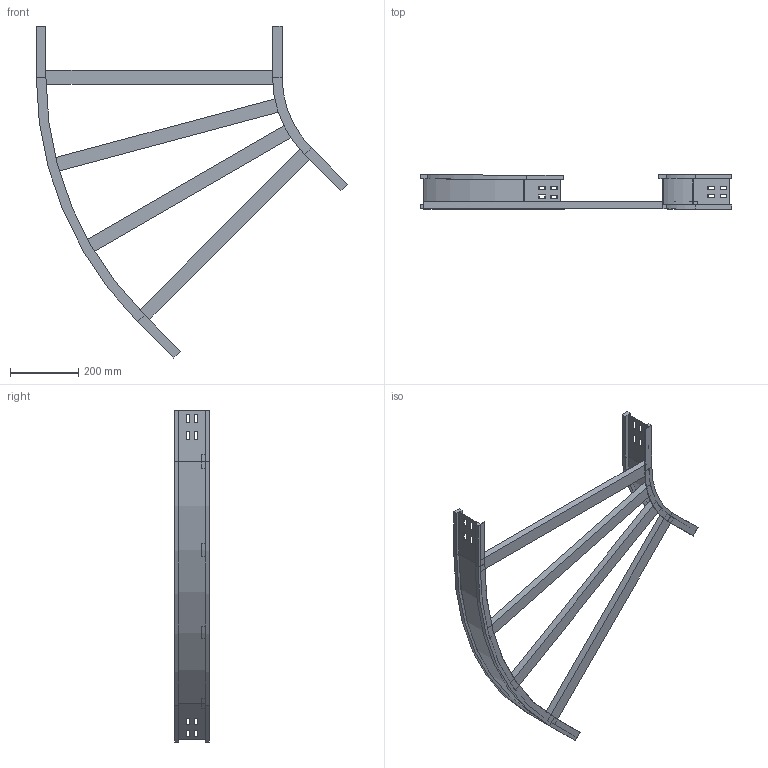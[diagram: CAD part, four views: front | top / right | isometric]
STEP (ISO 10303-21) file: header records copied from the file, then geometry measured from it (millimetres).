
FILE_DESCRIPTION (( 'STEP AP214' ), '1' );
FILE_NAME ('11S3D700.step', '2025-02-21T16:03:21', ( '' ), ( '' ), 'SwSTEP 2.0', 'SolidWorks 2023', '' );
FILE_SCHEMA (( 'AUTOMOTIVE_DESIGN' ));
Length unit declared in the file: millimetre
Products named in the file (4): 11S3D700; LONGH.ESTERNO 45°_H100_R300+700; TRAVERSINO_700; LONGH.INTERNO 45°_H100_R300
Assembly tree (6 placements, depth 2):
  11S3D700
    LONGH.INTERNO 45°_H100_R300
    LONGH.ESTERNO 45°_H100_R300+700
    TRAVERSINO_700  x4
Bounding box: 909.3 x 100 x 969.54 mm (x, y, z)
Volume: 3112424.6 mm3; surface area: 821823.2 mm2
Topology: 6 solids, 6 shells, 164 faces, 408 edges, 256 vertices
Faces by surface type: plane 152, cylinder 12
Entity records: 4485 total; most frequent: CARTESIAN_POINT 759, ORIENTED_EDGE 744, DIRECTION 706, EDGE_CURVE 372, VECTOR 348, LINE 348, VERTEX_POINT 232, AXIS2_PLACEMENT_3D 179
